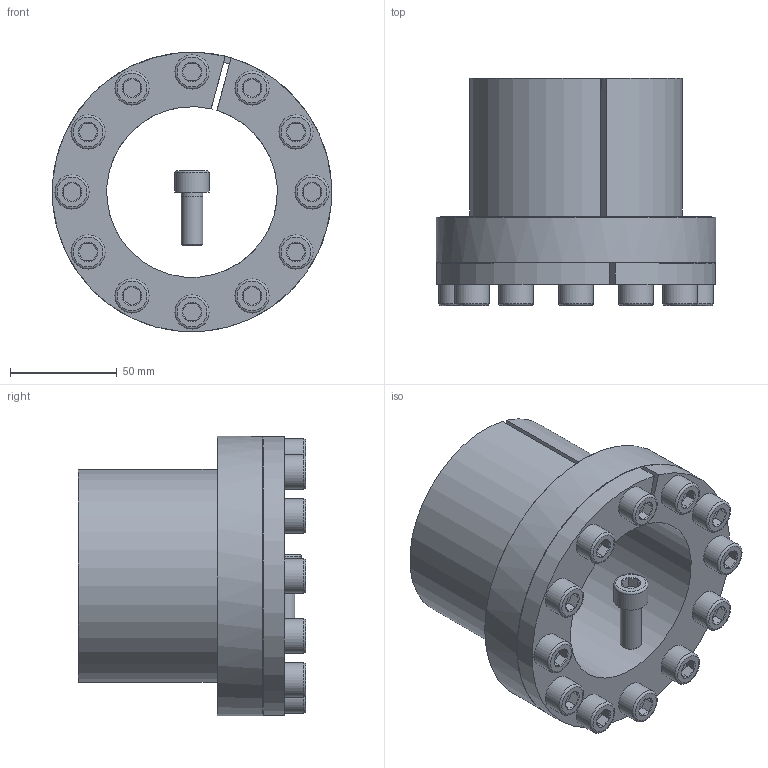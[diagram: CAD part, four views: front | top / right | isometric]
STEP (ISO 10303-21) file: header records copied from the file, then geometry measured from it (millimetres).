
FILE_DESCRIPTION( ( 'Unknown' ), '1' );
FILE_NAME( 'C:/Dokumente und Einstellungen/Sven/Desktop/homepage/cad - homepage/KBS80/KBS 80 - 80 x 100.stp', 'Unknown', ( 'Unknown' ), ( 'Unknown' ), 'XStep 1.0', 'Unknown', ' ' );
FILE_SCHEMA( ( 'automotive_design' ) );
Length unit declared in the file: millimetre
Products named in the file (14): Assem1; KBS 80 - 80 x 100; ISO EN DIN 4762 M10x25; ISO EN DIN 4762 M10x25-oa0; ISO EN DIN 4762 M10x25-oa1; ISO EN DIN 4762 M10x25-oa2; ISO EN DIN 4762 M10x25-oa3; ISO EN DIN 4762 M10x25-oa4; ISO EN DIN 4762 M10x25-oa5; ISO EN DIN 4762 M10x25-oa6; ISO EN DIN 4762 M10x25-oa7; ISO EN DIN 4762 M10x25-oa8; ISO EN DIN 4762 M10x25-oa9; ISO EN DIN 4762 M10x25-oa10
Bounding box: 131 x 106.5 x 131 mm (x, y, z)
Volume: 917308.6 mm3; surface area: 217845.2 mm2
Topology: 26 solids, 26 shells, 672 faces, 1254 edges, 728 vertices
Faces by surface type: plane 312, cone 182, cylinder 130, torus 48
Full cylindrical faces by diameter (mm): 9 x24, 10 x72, 16 x24, 131 x2
Entity records: 8377 total; most frequent: CARTESIAN_POINT 1765, DIRECTION 1370, ORIENTED_EDGE 1002, AXIS2_PLACEMENT_3D 599, EDGE_LOOP 509, EDGE_CURVE 501, FACE_OUTER_BOUND 421, VERTEX_POINT 338
